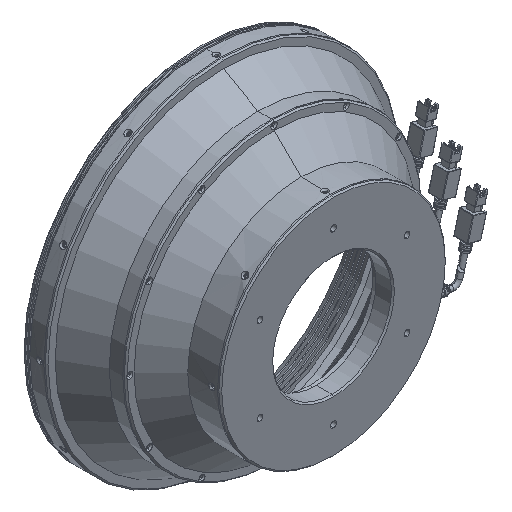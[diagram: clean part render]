
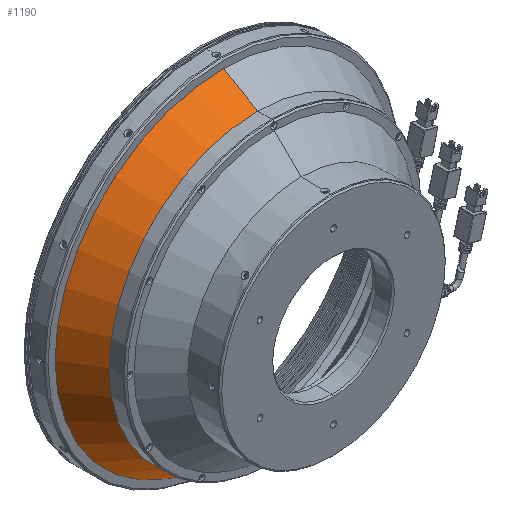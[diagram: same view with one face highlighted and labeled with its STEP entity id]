
A CAD part, isometric view. The second image highlights one B-rep face of the part: STEP entity #1190.
In plain terms, the highlighted conical face has half-angle 30 degrees and reference radius 105 mm.
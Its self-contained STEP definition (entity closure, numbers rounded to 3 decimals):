
#1190 = ADVANCED_FACE ( 'NONE', ( #14676 ), #13961, .T. ) ;
#1469 = CIRCLE ( 'NONE', #27324, 105. ) ;
#3281 = DIRECTION ( 'NONE',  ( 0., 0., 1. ) ) ;
#5652 = CARTESIAN_POINT ( 'NONE',  ( 0., 53.751, 105. ) ) ;
#6978 = EDGE_CURVE ( 'NONE', #8682, #7981, #23149, .T. ) ;
#7391 = EDGE_LOOP ( 'NONE', ( #18651, #26308, #25418, #28082 ) ) ;
#7981 = VERTEX_POINT ( 'NONE', #14929 ) ;
#8610 = EDGE_CURVE ( 'NONE', #26428, #23635, #21601, .T. ) ;
#8682 = VERTEX_POINT ( 'NONE', #5652 ) ;
#9816 = DIRECTION ( 'NONE',  ( 0., 0.866, 0.5 ) ) ;
#9837 = CARTESIAN_POINT ( 'NONE',  ( 0., 53.751, -105. ) ) ;
#11083 = VECTOR ( 'NONE', #9816, 1000. ) ;
#11827 = DIRECTION ( 'NONE',  ( 0., -1., 0. ) ) ;
#12443 = CARTESIAN_POINT ( 'NONE',  ( 0., 53.751, -105. ) ) ;
#13318 = DIRECTION ( 'NONE',  ( 0., -1., 0. ) ) ;
#13961 = CONICAL_SURFACE ( 'NONE', #15178, 105., 0.524 ) ;
#14601 = DIRECTION ( 'NONE',  ( 0., 1., 0. ) ) ;
#14676 = FACE_OUTER_BOUND ( 'NONE', #7391, .T. ) ;
#14929 = CARTESIAN_POINT ( 'NONE',  ( 0., 78., 119. ) ) ;
#15178 = AXIS2_PLACEMENT_3D ( 'NONE', #23723, #14601, #3281 ) ;
#15563 = VECTOR ( 'NONE', #23413, 1000. ) ;
#18651 = ORIENTED_EDGE ( 'NONE', *, *, #8610, .F. ) ;
#19130 = EDGE_CURVE ( 'NONE', #8682, #26428, #1469, .T. ) ;
#19498 = CIRCLE ( 'NONE', #23231, 119. ) ;
#20823 = CARTESIAN_POINT ( 'NONE',  ( 0., 53.751, 105. ) ) ;
#21601 = LINE ( 'NONE', #9837, #15563 ) ;
#21765 = EDGE_CURVE ( 'NONE', #7981, #23635, #19498, .T. ) ;
#23149 = LINE ( 'NONE', #20823, #11083 ) ;
#23231 = AXIS2_PLACEMENT_3D ( 'NONE', #26886, #13318, #29171 ) ;
#23413 = DIRECTION ( 'NONE',  ( 0., 0.866, -0.5 ) ) ;
#23572 = CARTESIAN_POINT ( 'NONE',  ( 0., 78., -119. ) ) ;
#23635 = VERTEX_POINT ( 'NONE', #23572 ) ;
#23723 = CARTESIAN_POINT ( 'NONE',  ( 0., 53.751, 0. ) ) ;
#25404 = CARTESIAN_POINT ( 'NONE',  ( 0., 53.751, 0. ) ) ;
#25418 = ORIENTED_EDGE ( 'NONE', *, *, #6978, .T. ) ;
#26308 = ORIENTED_EDGE ( 'NONE', *, *, #19130, .F. ) ;
#26428 = VERTEX_POINT ( 'NONE', #12443 ) ;
#26886 = CARTESIAN_POINT ( 'NONE',  ( 0., 78., 0. ) ) ;
#27324 = AXIS2_PLACEMENT_3D ( 'NONE', #25404, #11827, #27658 ) ;
#27658 = DIRECTION ( 'NONE',  ( 0., 0., -1. ) ) ;
#28082 = ORIENTED_EDGE ( 'NONE', *, *, #21765, .T. ) ;
#29171 = DIRECTION ( 'NONE',  ( 0., 0., -1. ) ) ;
